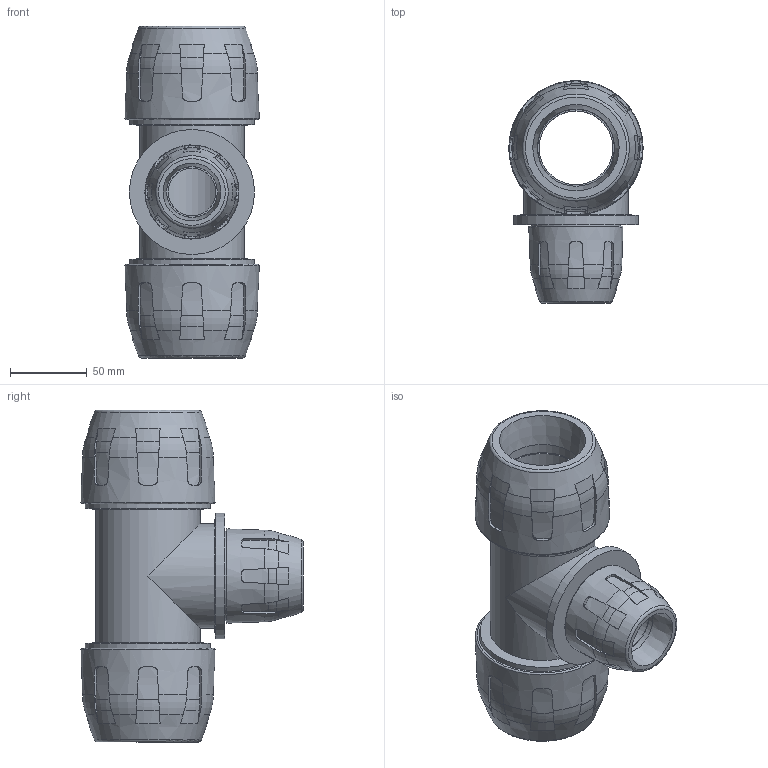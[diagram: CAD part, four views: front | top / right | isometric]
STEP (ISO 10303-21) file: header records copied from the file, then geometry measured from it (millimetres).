
FILE_DESCRIPTION( ( 'STEP AP214' ), '1' );
FILE_NAME( ' ', ' ', ( ' ' ), ( ' ' ), 'PSStep 11.0', 'VISI 17.0', ' ' );
FILE_SCHEMA( ( 'AUTOMOTIVE_DESIGN { 1 0 10303 214 1 1 1 1 }' ) );
Length unit declared in the file: millimetre
Products named in the file (4): 1; 2; 3; 4
Bounding box: 87.34 x 144.7 x 216 mm (x, y, z)
Volume: 722617 mm3; surface area: 179367.2 mm2
Topology: 4 solids, 4 shells, 605 faces, 1710 edges, 1135 vertices
Faces by surface type: plane 319, cone 139, cylinder 81, bspline 48, torus 18
Full cylindrical faces by diameter (mm): 31 x1, 32.9 x1, 33.44 x1, 47.3 x1, 48 x1, 48.202 x2, 48.693 x1, 50.625 x2, 50.9 x2, 51.2 x1, 52 x1, 58 x1, 58.6 x1, 68 x2, 70.3 x2, 71.6 x4, 75.8 x2, 76.4 x2, 81.4 x3, 82.4 x2
Entity records: 26557 total; most frequent: CARTESIAN_POINT 7136, ORIENTED_EDGE 3218, DIRECTION 2802, EDGE_CURVE 1609, AXIS2_PLACEMENT_3D 1209, VERTEX_POINT 1105, EDGE_LOOP 708, FACE_OUTER_BOUND 656
